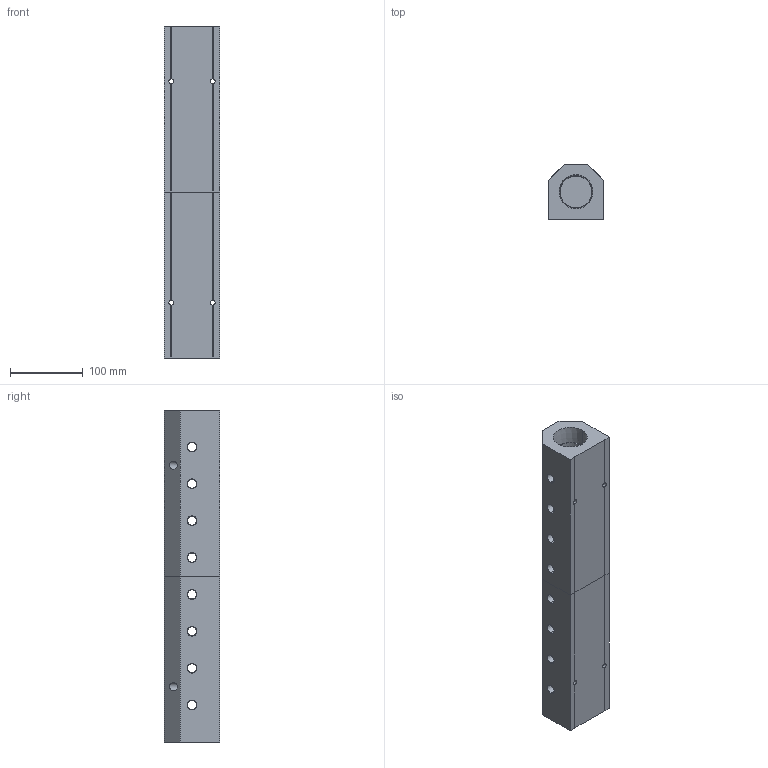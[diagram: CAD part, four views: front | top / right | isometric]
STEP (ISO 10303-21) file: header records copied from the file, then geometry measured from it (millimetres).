
FILE_DESCRIPTION (( 'STEP AP214' ), '1' );
FILE_NAME ('ALM8ACE-N4N24-457RB.step', '2022-02-07T07:52:19', ( '' ), ( '' ), 'SwSTEP 2.0', 'SolidWorks 2020', '' );
FILE_SCHEMA (( 'AUTOMOTIVE_DESIGN' ));
Length unit declared in the file: millimetre
Products named in the file (1): ALM8ACE-N4N24-457RB
Bounding box: 76.2 x 76.2 x 457 mm (x, y, z)
Volume: 1656213.6 mm3; surface area: 226912.4 mm2
Topology: 2 solids, 2 shells, 393 faces, 1058 edges, 692 vertices
Faces by surface type: plane 263, bspline 58, cone 52, cylinder 20
Entity records: 21722 total; most frequent: CARTESIAN_POINT 8474, ORIENTED_EDGE 2116, DIRECTION 1638, EDGE_CURVE 1058, VECTOR 790, LINE 790, VERTEX_POINT 692, EDGE_LOOP 472
